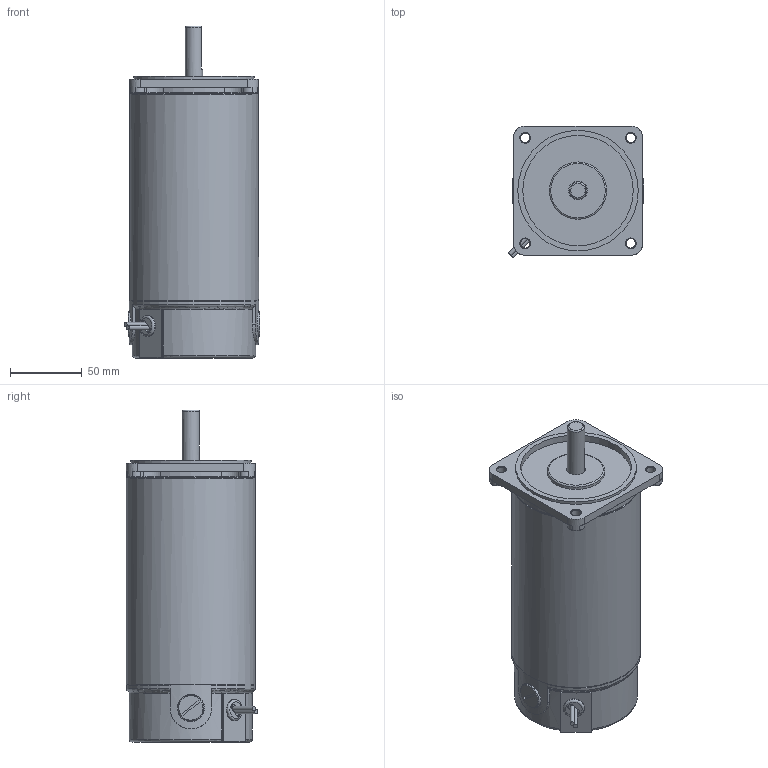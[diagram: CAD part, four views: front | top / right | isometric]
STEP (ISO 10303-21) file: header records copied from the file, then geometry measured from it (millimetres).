
FILE_DESCRIPTION((''),'2;1');
FILE_NAME('\\192.168.5.4\오메가연구소\DC CAD\02 - DC MOTOR 설계 - CAD FILE\DC MOTOR 3D 도면\표준 3D 파일\90각\300W\S9D300-ㅁK.stp','2014-06-17T08:34:04',('ycw1227'),(''),'Autodesk Inventor 2011','Autodesk Inventor 2011','');
FILE_SCHEMA(('AUTOMOTIVE_DESIGN { 1 0 10303 214 1 1 1 1 }'));
Length unit declared in the file: millimetre
Products named in the file (1): 부품37
Bounding box: 94.79 x 91.63 x 231.5 mm (x, y, z)
Volume: 1228599.7 mm3; surface area: 78062.4 mm2
Topology: 2 solids, 4 shells, 186 faces, 429 edges, 264 vertices
Faces by surface type: plane 75, cylinder 64, torus 31, cone 13, sphere 2, bspline 1
Full cylindrical faces by diameter (mm): 3 x2, 5 x3, 6.5 x4, 12 x1, 13 x1, 14.63 x1, 14.65 x1, 18 x2, 19 x2, 40 x1, 77 x1, 84 x1, 90 x2
Entity records: 5586 total; most frequent: CARTESIAN_POINT 1316, DIRECTION 939, ORIENTED_EDGE 780, AXIS2_PLACEMENT_3D 395, EDGE_CURVE 390, VERTEX_POINT 258, EDGE_LOOP 241, CIRCLE 209
